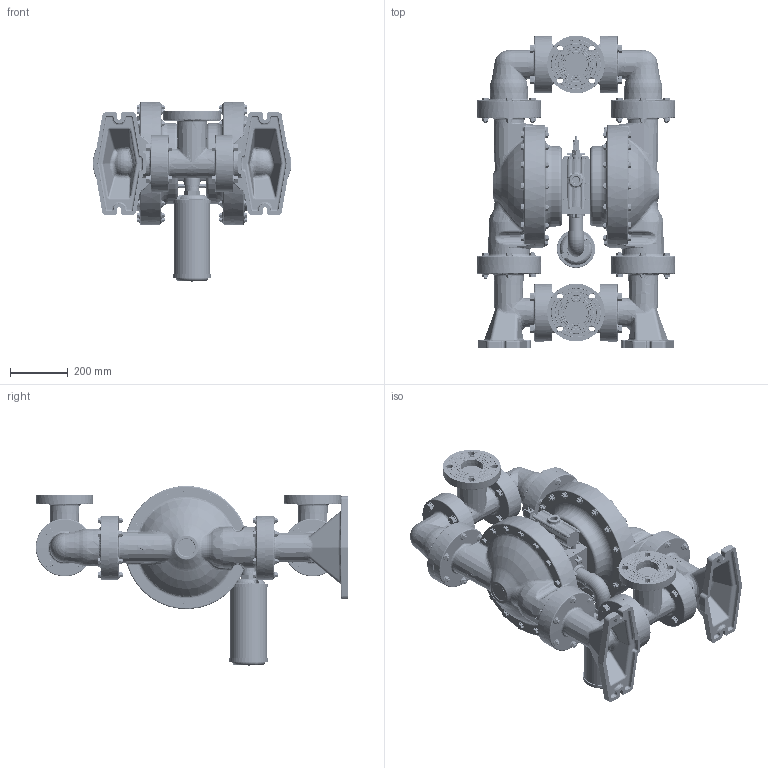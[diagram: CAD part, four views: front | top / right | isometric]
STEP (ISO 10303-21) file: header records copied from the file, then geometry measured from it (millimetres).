
FILE_DESCRIPTION(/* description */ (''),/* implementation_level */ '2;1');
FILE_NAME(/* name */ 'PE30P-DXX-XXX-AXX_A.stp',/* time_stamp */ '2018-03-30T13:09:55-04:00',/* author */ (''),/* organization */ (''),/* preprocessor_version */ 'ST-DEVELOPER v14',/* originating_system */ 'SIEMENS PLM Software NX 8.0',/* authorisation */ '');
FILE_SCHEMA (('CONFIG_CONTROL_DESIGN'));
Length unit declared in the file: inch
Products named in the file (1): PE30P-DXX-XXX-AXX
Bounding box: 689.44 x 1084.63 x 624.73 mm (x, y, z)
Volume: 85453016.3 mm3; surface area: 3254550 mm2
Topology: 5 solids, 5 shells, 8840 faces, 22442 edges, 14136 vertices
Faces by surface type: plane 4967, cone 1578, cylinder 1137, bspline 682, torus 212, extrusion 154, sphere 110
Full cylindrical faces by diameter (mm): 17 x1, 24.3 x20, 26 x20, 200.025 x4
Entity records: 374023 total; most frequent: CARTESIAN_POINT 175937, ORIENTED_EDGE 44686, DIRECTION 35739, EDGE_CURVE 22343, VERTEX_POINT 14108, AXIS2_PLACEMENT_3D 12883, VECTOR 9973, LINE 9819
